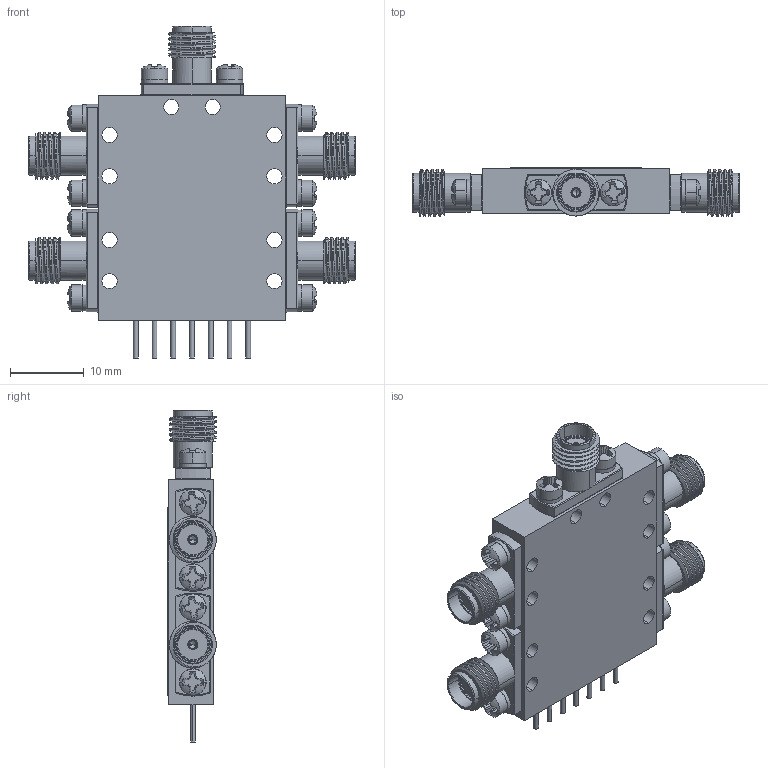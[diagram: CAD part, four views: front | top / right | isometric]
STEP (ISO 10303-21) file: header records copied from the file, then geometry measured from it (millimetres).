
FILE_DESCRIPTION (( 'STEP AP214' ), '1' );
FILE_NAME ('P4T-0R5G18G-50-T-SFF.STEP', '2025-10-09T12:33:24', ( '' ), ( '' ), 'SwSTEP 2.0', 'SolidWorks 2024', '' );
FILE_SCHEMA (( 'AUTOMOTIVE_DESIGN' ));
Length unit declared in the file: inch
Products named in the file (1): P4T-0R5G18G-50-T-SFF
Bounding box: 44.3 x 6.58 x 45.01 mm (x, y, z)
Volume: 6123.7 mm3; surface area: 6907.6 mm2
Topology: 49 solids, 49 shells, 1204 faces, 4137 edges, 3246 vertices
Faces by surface type: plane 551, cylinder 323, torus 210, cone 90, sphere 20, bspline 10
Entity records: 64750 total; most frequent: CARTESIAN_POINT 21193, ORIENTED_EDGE 8234, DIRECTION 6858, EDGE_CURVE 4117, VERTEX_POINT 3246, AXIS2_PLACEMENT_3D 2487, VECTOR 1884, LINE 1884
